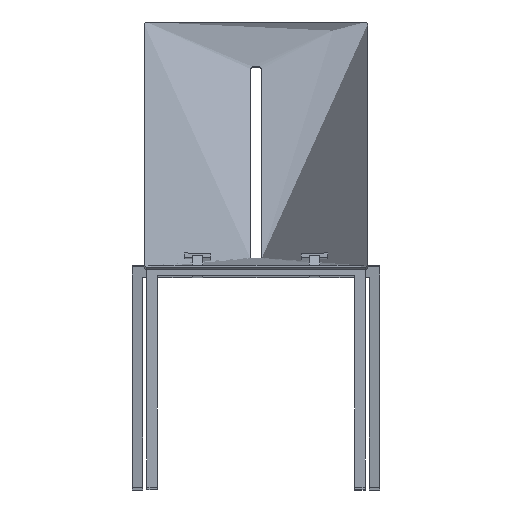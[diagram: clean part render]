
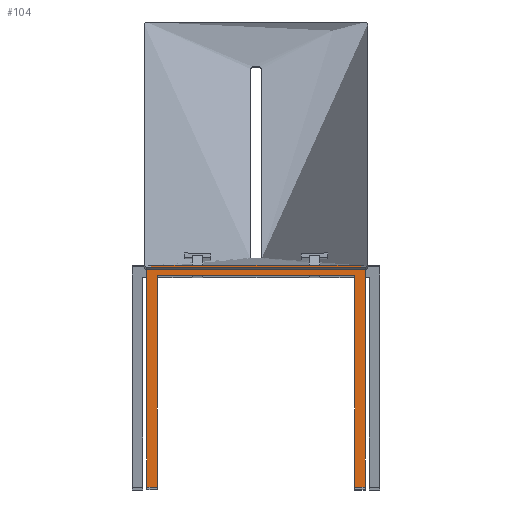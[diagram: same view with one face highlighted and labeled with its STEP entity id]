
A CAD part, front view. The second image highlights one B-rep face of the part: STEP entity #104.
In plain terms, the highlighted planar face has unit normal (0, -1, 0).
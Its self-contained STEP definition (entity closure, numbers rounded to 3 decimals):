
#104=ADVANCED_FACE('',(#184),#1295,.T.);
#184=FACE_OUTER_BOUND('',#266,.T.);
#266=EDGE_LOOP('',(#559,#560,#561,#562,#563,#564,#565,#566,#567,#568,#569,
#570));
#559=ORIENTED_EDGE('',*,*,#862,.F.);
#560=ORIENTED_EDGE('',*,*,#863,.F.);
#561=ORIENTED_EDGE('',*,*,#864,.T.);
#562=ORIENTED_EDGE('',*,*,#841,.F.);
#563=ORIENTED_EDGE('',*,*,#865,.T.);
#564=ORIENTED_EDGE('',*,*,#856,.F.);
#565=ORIENTED_EDGE('',*,*,#857,.F.);
#566=ORIENTED_EDGE('',*,*,#858,.T.);
#567=ORIENTED_EDGE('',*,*,#859,.F.);
#568=ORIENTED_EDGE('',*,*,#860,.F.);
#569=ORIENTED_EDGE('',*,*,#861,.T.);
#570=ORIENTED_EDGE('',*,*,#837,.F.);
#837=EDGE_CURVE('',#1217,#1219,#1023,.T.);
#841=EDGE_CURVE('',#1223,#1221,#1027,.T.);
#856=EDGE_CURVE('',#1238,#1237,#1042,.T.);
#857=EDGE_CURVE('',#1239,#1238,#1043,.T.);
#858=EDGE_CURVE('',#1239,#1240,#1044,.T.);
#859=EDGE_CURVE('',#1241,#1240,#1045,.T.);
#860=EDGE_CURVE('',#1242,#1241,#1046,.T.);
#861=EDGE_CURVE('',#1242,#1219,#1047,.T.);
#862=EDGE_CURVE('',#1243,#1217,#1048,.T.);
#863=EDGE_CURVE('',#1244,#1243,#1049,.T.);
#864=EDGE_CURVE('',#1244,#1221,#1050,.T.);
#865=EDGE_CURVE('',#1223,#1237,#1051,.T.);
#1023=B_SPLINE_CURVE_WITH_KNOTS('',1,(#5010,#5011),.UNSPECIFIED.,.F.,.F.,
(2,2),(-27.856,8.358),.UNSPECIFIED.);
#1027=B_SPLINE_CURVE_WITH_KNOTS('',1,(#5018,#5019),.UNSPECIFIED.,.F.,.F.,
(2,2),(-33.928,2.286),.UNSPECIFIED.);
#1042=B_SPLINE_CURVE_WITH_KNOTS('',1,(#5048,#5049),.UNSPECIFIED.,.F.,.F.,
(2,2),(0.,1.),.UNSPECIFIED.);
#1043=B_SPLINE_CURVE_WITH_KNOTS('',1,(#5050,#5051),.UNSPECIFIED.,.F.,.F.,
(2,2),(0.,1.),.UNSPECIFIED.);
#1044=B_SPLINE_CURVE_WITH_KNOTS('',1,(#5052,#5053),.UNSPECIFIED.,.F.,.F.,
(2,2),(0.,1.),.UNSPECIFIED.);
#1045=B_SPLINE_CURVE_WITH_KNOTS('',1,(#5054,#5055),.UNSPECIFIED.,.F.,.F.,
(2,2),(0.,1.),.UNSPECIFIED.);
#1046=B_SPLINE_CURVE_WITH_KNOTS('',1,(#5056,#5057),.UNSPECIFIED.,.F.,.F.,
(2,2),(0.,1.),.UNSPECIFIED.);
#1047=B_SPLINE_CURVE_WITH_KNOTS('',1,(#5058,#5059),.UNSPECIFIED.,.F.,.F.,
(2,2),(0.,0.971),.UNSPECIFIED.);
#1048=B_SPLINE_CURVE_WITH_KNOTS('',1,(#5060,#5061),.UNSPECIFIED.,.F.,.F.,
(2,2),(0.,20.),.UNSPECIFIED.);
#1049=B_SPLINE_CURVE_WITH_KNOTS('',1,(#5062,#5063),.UNSPECIFIED.,.F.,.F.,
(2,2),(-271.565,0.),.UNSPECIFIED.);
#1050=B_SPLINE_CURVE_WITH_KNOTS('',1,(#5064,#5065),.UNSPECIFIED.,.F.,.F.,
(2,2),(0.,20.),.UNSPECIFIED.);
#1051=B_SPLINE_CURVE_WITH_KNOTS('',1,(#5066,#5067),.UNSPECIFIED.,.F.,.F.,
(2,2),(0.029,1.),.UNSPECIFIED.);
#1217=VERTEX_POINT('',#4910);
#1219=VERTEX_POINT('',#4912);
#1221=VERTEX_POINT('',#4914);
#1223=VERTEX_POINT('',#4916);
#1237=VERTEX_POINT('',#4930);
#1238=VERTEX_POINT('',#4931);
#1239=VERTEX_POINT('',#4932);
#1240=VERTEX_POINT('',#4933);
#1241=VERTEX_POINT('',#4934);
#1242=VERTEX_POINT('',#4935);
#1243=VERTEX_POINT('',#4936);
#1244=VERTEX_POINT('',#4937);
#1295=PLANE('',#1453);
#1453=AXIS2_PLACEMENT_3D('',#4881,#1510,$);
#1510=DIRECTION('',(0.,-1.,0.));
#4881=CARTESIAN_POINT('',(205.,-219.808,5.408));
#4910=CARTESIAN_POINT('',(120.,-219.808,422.261));
#4912=CARTESIAN_POINT('',(205.,-219.808,422.261));
#4914=CARTESIAN_POINT('',(-120.,-219.808,422.261));
#4916=CARTESIAN_POINT('',(-205.,-219.808,422.261));
#4930=CARTESIAN_POINT('',(-205.,-219.808,5.408));
#4931=CARTESIAN_POINT('',(-185.,-219.808,5.408));
#4932=CARTESIAN_POINT('',(-185.,-219.808,402.261));
#4933=CARTESIAN_POINT('',(185.,-219.808,402.261));
#4934=CARTESIAN_POINT('',(185.,-219.808,5.408));
#4935=CARTESIAN_POINT('',(205.,-219.808,5.408));
#4936=CARTESIAN_POINT('',(100.,-219.808,422.261));
#4937=CARTESIAN_POINT('',(-100.,-219.808,422.261));
#5010=CARTESIAN_POINT('',(120.,-219.808,422.261));
#5011=CARTESIAN_POINT('',(205.,-219.808,422.261));
#5018=CARTESIAN_POINT('',(-205.,-219.808,422.261));
#5019=CARTESIAN_POINT('',(-120.,-219.808,422.261));
#5048=CARTESIAN_POINT('',(-185.,-219.808,5.408));
#5049=CARTESIAN_POINT('',(-205.,-219.808,5.408));
#5050=CARTESIAN_POINT('',(-185.,-219.808,402.261));
#5051=CARTESIAN_POINT('',(-185.,-219.808,5.408));
#5052=CARTESIAN_POINT('',(-185.,-219.808,402.261));
#5053=CARTESIAN_POINT('',(185.,-219.808,402.261));
#5054=CARTESIAN_POINT('',(185.,-219.808,5.408));
#5055=CARTESIAN_POINT('',(185.,-219.808,402.261));
#5056=CARTESIAN_POINT('',(205.,-219.808,5.408));
#5057=CARTESIAN_POINT('',(185.,-219.808,5.408));
#5058=CARTESIAN_POINT('',(205.,-219.808,5.408));
#5059=CARTESIAN_POINT('',(205.,-219.808,422.261));
#5060=CARTESIAN_POINT('',(100.,-219.808,422.261));
#5061=CARTESIAN_POINT('',(120.,-219.808,422.261));
#5062=CARTESIAN_POINT('',(-100.,-219.808,422.261));
#5063=CARTESIAN_POINT('',(100.,-219.808,422.261));
#5064=CARTESIAN_POINT('',(-100.,-219.808,422.261));
#5065=CARTESIAN_POINT('',(-120.,-219.808,422.261));
#5066=CARTESIAN_POINT('',(-205.,-219.808,422.261));
#5067=CARTESIAN_POINT('',(-205.,-219.808,5.408));
